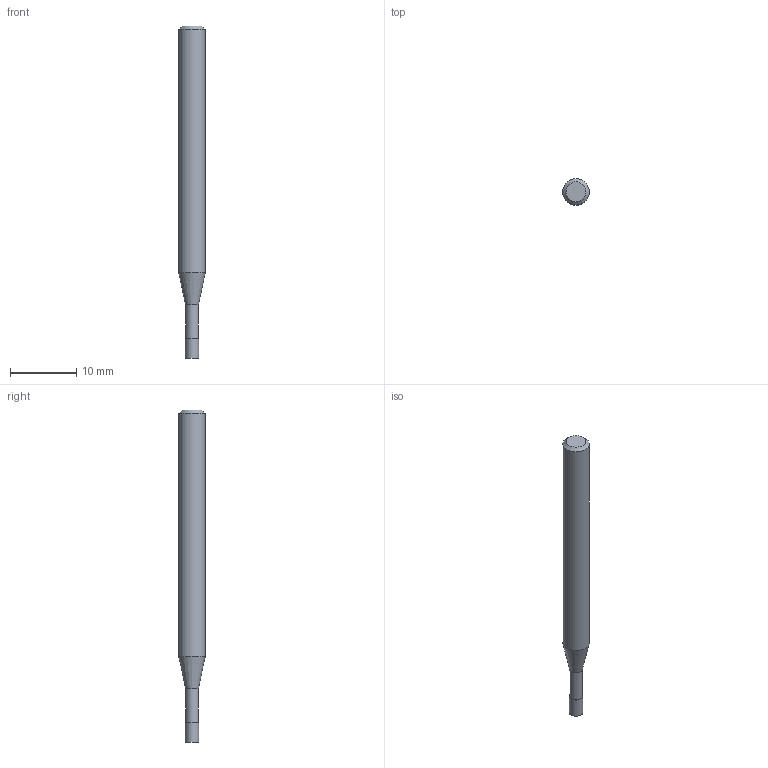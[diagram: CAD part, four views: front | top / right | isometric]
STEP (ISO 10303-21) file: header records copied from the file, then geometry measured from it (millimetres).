
FILE_DESCRIPTION((''),'2;1');
FILE_NAME('C:\Users\nsx150\AppData\Local\Temp\Mastercam 2021\17T8Q8S9EB\TEMP.step','2021-04-21T16:15:38',(''),(''),'STEP Write','Mastercam 2021 ... CNC Software, Inc.','');
FILE_SCHEMA(('AUTOMOTIVE_DESIGN'));
Length unit declared in the file: millimetre
Products named in the file (1): None
Bounding box: 4 x 4 x 50 mm (x, y, z)
Volume: 524.6 mm3; surface area: 580.2 mm2
Topology: 2 solids, 2 shells, 9 faces, 12 edges, 7 vertices
Faces by surface type: plane 4, cylinder 3, cone 2
Full cylindrical faces by diameter (mm): 1.94 x1, 2 x1, 4 x1
Entity records: 211 total; most frequent: DIRECTION 36, CARTESIAN_POINT 25, AXIS2_PLACEMENT_3D 18, ORIENTED_EDGE 14, EDGE_LOOP 14, STYLED_ITEM 12, ADVANCED_FACE 9, FACE_BOUND 8
